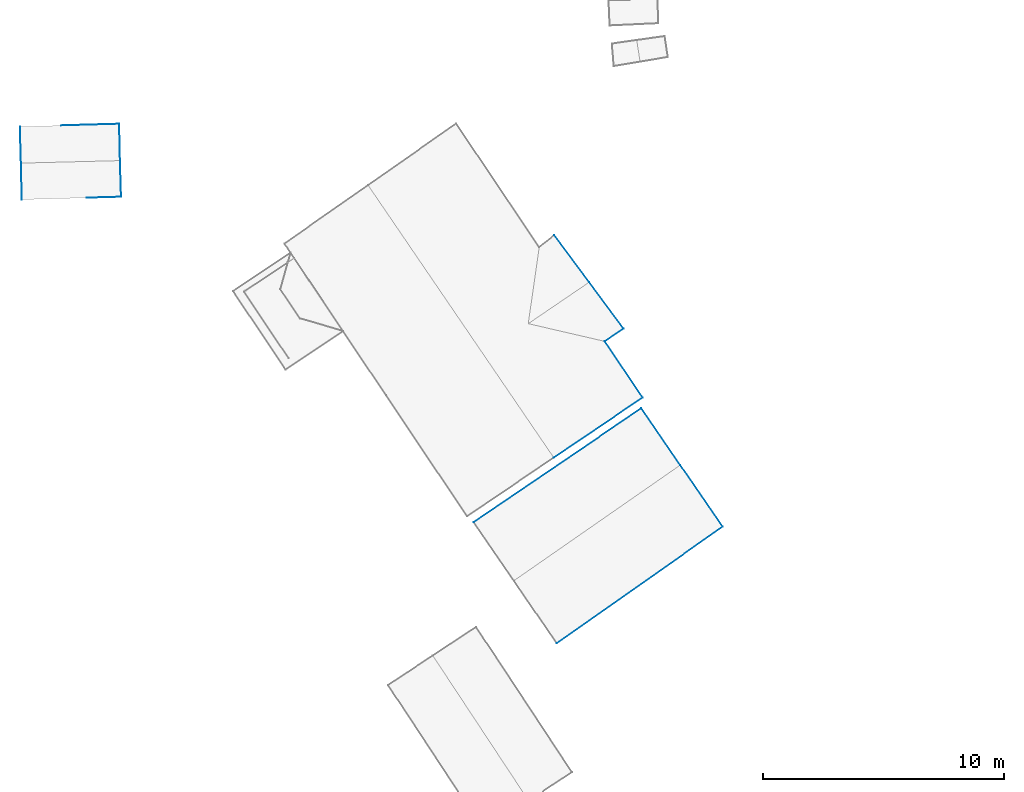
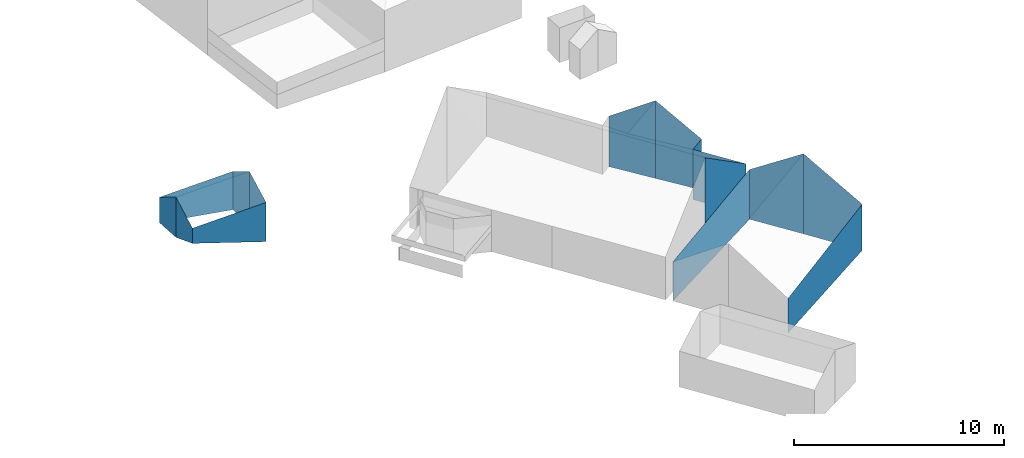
# Not in any storey, part 3 of 57: 15 walls.
"""IFC4 building model written with IfcOpenShell, lengths in metres."""

import ifcopenshell
import ifcopenshell.guid

model = None  # the IFC model being written
_history = None  # IfcOwnerHistory: only IFC2X3 demands one
_inside = {}  # id of a spatial element -> (the spatial element, [elements in it])
_under = {}  # id of a project, library or spatial element -> (it, [spatial elements below it])
_declared = {}  # id of a project -> (the project, [libraries it declares])
_typed = {}  # id of a type object -> (the type object, [elements of that type])
_made_of = {}  # id of a material, layer set ... -> (it, [elements and type objects made of it])


def new_model(schema):
    """Start an empty IFC model of exactly this schema.

    Asked for "IFC4X3", IfcOpenShell would pick the latest addendum, in which some entities
    have other attributes; the version numbers below select the first issue.
    IFC2X3 requires an IfcOwnerHistory on every rooted entity: one is made here for all.
    """
    global model, _history
    if schema == "IFC4X3":
        model = ifcopenshell.file(schema_version=(4, 3, 0, 0))
    else:
        model = ifcopenshell.file(schema=schema)
    _inside.clear()
    _under.clear()
    _declared.clear()
    _typed.clear()
    _made_of.clear()
    _history = None
    if model.schema == "IFC2X3":
        org = make("IfcOrganization", Name="unknown")
        user = make(
            "IfcPersonAndOrganization",
            ThePerson=make("IfcPerson", FamilyName="unknown"),
            TheOrganization=org,
        )
        app = make(
            "IfcApplication",
            ApplicationDeveloper=org,
            Version="unknown",
            ApplicationFullName="unknown",
            ApplicationIdentifier="unknown",
        )
        _history = make(
            "IfcOwnerHistory",
            OwningUser=user,
            OwningApplication=app,
            ChangeAction="ADDED",
            CreationDate=0,
        )
    return model


def make(cls, **values):
    """One entity of the class cls with the attributes given. An attribute that is None is left unset."""
    return model.create_entity(
        cls, **{name: value for name, value in values.items() if value is not None}
    )


def entity(cls, *values):
    """Any entity or typed value of the class cls, its attributes in the order of the schema. None: left unset."""
    e = model.create_entity(cls)
    for i, value in enumerate(values):
        if value is not None:
            e[i] = value
    return e


def rooted(cls, **values):
    """An entity with a GlobalId (a new one), such as an element, a storey or a relation."""
    return make(cls, GlobalId=ifcopenshell.guid.new(), OwnerHistory=_history, **values)


def si_unit(unit_type, name, prefix=None):
    """IfcSIUnit, for example si_unit("LENGTHUNIT", "METRE", prefix="MILLI")."""
    return make("IfcSIUnit", UnitType=unit_type, Prefix=prefix, Name=name)


def converted_unit(unit_type, name, factor, base, dimensions=None, offset=None):
    """IfcConversionBasedUnit, such as the inch: factor (a typed value) times the base unit."""
    return make(
        "IfcConversionBasedUnit"
        if offset is None
        else "IfcConversionBasedUnitWithOffset",
        ConversionOffset=offset,
        Dimensions=None
        if dimensions is None
        else entity("IfcDimensionalExponents", *dimensions),
        UnitType=unit_type,
        Name=name,
        ConversionFactor=make(
            "IfcMeasureWithUnit", ValueComponent=factor, UnitComponent=base
        ),
    )


def assignment(units):
    """IfcUnitAssignment: the units of a project."""
    return None if units is None else make("IfcUnitAssignment", Units=units)


def point(xyz):
    """IfcCartesianPoint."""
    return None if xyz is None else make("IfcCartesianPoint", Coordinates=xyz)


def direction(xyz):
    """IfcDirection."""
    return None if xyz is None else make("IfcDirection", DirectionRatios=xyz)


def frame(location, z_axis=None, x_axis=None):
    """IfcAxis2Placement3D, a coordinate frame: its origin and axes. An axis left out is left unset."""
    return make(
        "IfcAxis2Placement3D",
        Location=point(location),
        Axis=direction(z_axis),
        RefDirection=direction(x_axis),
    )


def origin():
    """The frame at (0, 0, 0) with its axes left unset."""
    return frame((0.0, 0.0, 0.0))


def place(relative_to, where):
    """IfcLocalPlacement: puts the frame where relative to a parent placement (None: the world)."""
    return make(
        "IfcLocalPlacement", PlacementRelTo=relative_to, RelativePlacement=where
    )


def context(
    kind, dimensions, precision=None, world=None, true_north=None, identifier=None
):
    """IfcGeometricRepresentationContext, for example the 3D "Model" context."""
    return make(
        "IfcGeometricRepresentationContext",
        ContextIdentifier=identifier,
        ContextType=kind,
        CoordinateSpaceDimension=dimensions,
        Precision=precision,
        WorldCoordinateSystem=world,
        TrueNorth=true_north,
    )


def subcontext(parent, identifier, kind, view, scale=None):
    """IfcGeometricRepresentationSubContext, for example "Body" below "Model"."""
    return make(
        "IfcGeometricRepresentationSubContext",
        ContextIdentifier=identifier,
        ContextType=kind,
        ParentContext=parent,
        TargetScale=scale,
        TargetView=view,
    )


def project(units=None, contexts=None):
    """IfcProject with its units and contexts."""
    return rooted(
        "IfcProject",
        Name="project",
        RepresentationContexts=contexts,
        UnitsInContext=assignment(units),
    )


def spatial(cls, under=None, at=None, **own):
    """A site, building, storey or space (cls), placed at a placement, below another one or the project."""
    s = rooted(cls, ObjectPlacement=at, **own)
    if under is not None:
        _under.setdefault(under.id(), (under, []))[1].append(s)
    return s


def faces_of(points, faces, orient=None, outer=None):
    """IfcFace entities. A face is a list of loops; a loop is a list of indices into points, from 0.

    orient and outer hold one flag for each loop. By default every Orientation is true, the
    first loop of a face is its IfcFaceOuterBound and the others are IfcFaceBound.
    """
    made = []
    for i, loops in enumerate(faces):
        bounds = []
        for j, loop in enumerate(loops):
            is_outer = j == 0 if outer is None else outer[i][j]
            bounds.append(
                make(
                    "IfcFaceOuterBound" if is_outer else "IfcFaceBound",
                    Bound=make("IfcPolyLoop", Polygon=[points[k] for k in loop]),
                    Orientation=True if orient is None else orient[i][j],
                )
            )
        made.append(make("IfcFace", Bounds=bounds))
    return made


def face_set(faces, orient=None, outer=None):
    """The faces of one IfcConnectedFaceSet. surface_model builds it on its shared points."""
    return ("IfcConnectedFaceSet", faces, orient, outer)


def surface_model(cls, points, shells):
    """IfcFaceBasedSurfaceModel or IfcShellBasedSurfaceModel (cls): surfaces that need not close."""
    shared = [point(p) for p in points]
    made = [make(c, CfsFaces=faces_of(shared, fs, o, b)) for c, fs, o, b in shells]
    if cls == "IfcFaceBasedSurfaceModel":
        return make(cls, FbsmFaces=made)
    return make(cls, SbsmBoundary=made)


def shape(context_of_items, identifier, shape_type, items):
    """IfcShapeRepresentation: the items that make up one representation, for example the "Body"."""
    return make(
        "IfcShapeRepresentation",
        ContextOfItems=context_of_items,
        RepresentationIdentifier=identifier,
        RepresentationType=shape_type,
        Items=items,
    )


def made_of(thing, what):
    """Note that an element or type object is made of a material, layer set ...; save() writes the relation."""
    if what is not None:
        _made_of.setdefault(what.id(), (what, []))[1].append(thing)
    return thing


def element(
    cls,
    number,
    at=None,
    inside=None,
    cuts=None,
    type_object=None,
    material=None,
    context=None,
    identifier="Body",
    shape_type=None,
    held_by="IfcProductDefinitionShape",
    body=None,
    shapes=None,
    **own,
):
    """One element of the class cls, such as IfcWall. Its Tag is "e" and its number.

    at: its placement. inside: the storey or other place that contains it. cuts: it is an
    opening in that element (IfcRelVoidsElement). A single representation is given by context,
    identifier, shape_type and body (its items); several are given by shapes. held_by: the class
    of the entity that holds the representations. save() writes the other relations.
    """
    e = rooted(cls, Tag="e%d" % number, ObjectPlacement=at, **own)
    if body is not None:
        shapes = [shape(context, identifier, shape_type, body)]
    if shapes is not None:
        e.Representation = make(held_by, Representations=shapes)
    if inside is not None:
        _inside.setdefault(inside.id(), (inside, []))[1].append(e)
    if cuts is not None:
        rooted(
            "IfcRelVoidsElement", RelatingBuildingElement=cuts, RelatedOpeningElement=e
        )
    if type_object is not None:
        _typed.setdefault(type_object.id(), (type_object, []))[1].append(e)
    return made_of(e, material)


def aggregate(whole, parts):
    """IfcRelAggregates: a whole, such as a stair, and the parts it consists of."""
    return rooted("IfcRelAggregates", RelatingObject=whole, RelatedObjects=parts)


def save(model, path):
    """Write the relations noted so far, then the file.

    IfcRelAggregates (storeys below a building ...), IfcRelContainedInSpatialStructure (elements
    in a storey), IfcRelDefinesByType, IfcRelAssociatesMaterial and IfcRelDeclares: one each for
    every whole, place, type object, material and project.
    """
    for whole, parts in _under.values():
        aggregate(whole, parts)
    for where, things in _inside.values():
        rooted(
            "IfcRelContainedInSpatialStructure",
            RelatedElements=things,
            RelatingStructure=where,
        )
    for kind, things in _typed.values():
        rooted("IfcRelDefinesByType", RelatedObjects=things, RelatingType=kind)
    for what, things in _made_of.values():
        rooted("IfcRelAssociatesMaterial", RelatedObjects=things, RelatingMaterial=what)
    for by, libraries in _declared.values():
        rooted("IfcRelDeclares", RelatingContext=by, RelatedDefinitions=libraries)
    model.write(path)


model = new_model("IFC4")

# Units and contexts
model_context = context("Model", 3, precision=1e-05, world=origin())
body_context = subcontext(model_context, "Body", "Model", "MODEL_VIEW")
ifc_project = project(units=[converted_unit("PLANEANGLEUNIT", "DEGREE", entity("IfcRatioMeasure", 0.0174532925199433), si_unit("PLANEANGLEUNIT", "RADIAN"), dimensions=[0, 0, 0, 0, 0, 0, 0]), si_unit("AREAUNIT", "SQUARE_METRE"), si_unit("LENGTHUNIT", "METRE")], contexts=[model_context])

# Site, building
site_placement = place(None, origin())
site = spatial("IfcSite", under=ifc_project, at=site_placement, Name="_site")
building_1_placement = place(site_placement, origin())
building_1 = spatial("IfcBuilding", under=site, at=building_1_placement, Name="_building")

# Walls
wall_1_placement = place(building_1_placement, origin())
element("IfcWall", 1, at=wall_1_placement, inside=building_1, Name="Wall", PredefinedType="NOTDEFINED", context=body_context, shape_type="SurfaceModel", body=[
    surface_model("IfcFaceBasedSurfaceModel", [(80.523, 89.644, 114.25), (80.557, 88.122, 115.16), (80.557, 88.122, 112.0), (80.523, 89.644, 112.017)], [face_set([[[0, 1, 2, 3]]])]),
])
wall_2_placement = place(building_1_placement, origin())
element("IfcWall", 2, at=wall_2_placement, inside=building_1, Name="Wall", PredefinedType="NOTDEFINED", context=body_context, shape_type="SurfaceModel", body=[
    surface_model("IfcFaceBasedSurfaceModel", [(76.408, 89.53, 114.25), (80.523, 89.644, 114.25), (80.523, 89.644, 112.017), (76.408, 89.53, 112.778)], [face_set([[[0, 1, 2, 3]]])]),
])
wall_3_placement = place(building_1_placement, origin())
element("IfcWall", 3, at=wall_3_placement, inside=building_1, Name="Wall", PredefinedType="NOTDEFINED", context=body_context, shape_type="SurfaceModel", body=[
    surface_model("IfcFaceBasedSurfaceModel", [(76.452, 88.018, 115.16), (76.408, 89.53, 114.25), (76.408, 89.53, 112.778), (76.452, 88.018, 112.816)], [face_set([[[0, 1, 2, 3]]])]),
])
wall_4_placement = place(building_1_placement, origin())
element("IfcWall", 4, at=wall_4_placement, inside=building_1, Name="Wall", PredefinedType="NOTDEFINED", context=body_context, shape_type="SurfaceModel", body=[
    surface_model("IfcFaceBasedSurfaceModel", [(76.487, 86.506, 114.25), (76.452, 88.018, 115.16), (76.452, 88.018, 112.816), (76.487, 86.506, 113.37)], [face_set([[[0, 1, 2, 3]]])]),
])
wall_5_placement = place(building_1_placement, origin())
element("IfcWall", 5, at=wall_5_placement, inside=building_1, Name="Wall", PredefinedType="NOTDEFINED", context=body_context, shape_type="SurfaceModel", body=[
    surface_model("IfcFaceBasedSurfaceModel", [(80.602, 86.62, 114.25), (76.487, 86.506, 114.25), (76.487, 86.506, 113.37), (80.602, 86.62, 111.963)], [face_set([[[0, 1, 2, 3]]])]),
])
wall_6_placement = place(building_1_placement, origin())
element("IfcWall", 6, at=wall_6_placement, inside=building_1, Name="Wall", PredefinedType="NOTDEFINED", context=body_context, shape_type="SurfaceModel", body=[
    surface_model("IfcFaceBasedSurfaceModel", [(80.557, 88.122, 115.16), (80.602, 86.62, 114.25), (80.602, 86.62, 111.963), (80.557, 88.122, 112.0)], [face_set([[[0, 1, 2, 3]]])]),
])

# Building
building_2_placement = place(site_placement, origin())
building_2 = spatial("IfcBuilding", under=site, at=building_2_placement, Name="_building")

# Walls
wall_7_placement = place(building_2_placement, origin())
element("IfcWall", 7, at=wall_7_placement, inside=building_2, Name="Wall", PredefinedType="NOTDEFINED", context=body_context, shape_type="SurfaceModel", body=[
    surface_model("IfcFaceBasedSurfaceModel", [(102.17, 77.85, 113.93), (103.786, 75.501, 115.71), (103.786, 75.501, 111.038), (102.17, 77.85, 111.029)], [face_set([[[0, 1, 2, 3]]])]),
])
wall_8_placement = place(building_2_placement, origin())
element("IfcWall", 8, at=wall_8_placement, inside=building_2, Name="Wall", PredefinedType="NOTDEFINED", context=body_context, shape_type="SurfaceModel", body=[
    surface_model("IfcFaceBasedSurfaceModel", [(95.225, 73.129, 113.84), (102.17, 77.85, 113.93), (102.17, 77.85, 111.029), (95.225, 73.129, 111.573)], [face_set([[[0, 1, 2, 3]]])]),
])
wall_9_placement = place(building_2_placement, origin())
element("IfcWall", 9, at=wall_9_placement, inside=building_2, Name="Wall", PredefinedType="NOTDEFINED", context=body_context, shape_type="SurfaceModel", body=[
    surface_model("IfcFaceBasedSurfaceModel", [(105.548, 72.948, 113.7), (98.67, 68.106, 113.56), (98.67, 68.106, 111.541), (105.548, 72.948, 111.015)], [face_set([[[0, 1, 2, 3]]])]),
])
wall_10_placement = place(building_2_placement, origin())
element("IfcWall", 10, at=wall_10_placement, inside=building_2, Name="Wall", PredefinedType="NOTDEFINED", context=body_context, shape_type="SurfaceModel", body=[
    surface_model("IfcFaceBasedSurfaceModel", [(103.786, 75.501, 115.71), (105.548, 72.948, 113.7), (105.548, 72.948, 111.015), (103.786, 75.501, 111.038)], [face_set([[[0, 1, 2, 3]]])]),
])

# Building
building_3_placement = place(site_placement, origin())
building_3 = spatial("IfcBuilding", under=site, at=building_3_placement, Name="_building")

# Walls
wall_11_placement = place(building_3_placement, origin())
element("IfcWall", 11, at=wall_11_placement, inside=building_3, Name="Wall", PredefinedType="NOTDEFINED", context=body_context, shape_type="SurfaceModel", body=[
    surface_model("IfcFaceBasedSurfaceModel", [(98.566, 85.029, 113.95), (100.011, 83.083, 115.53), (100.011, 83.083, 110.99), (98.566, 85.029, 111.005)], [face_set([[[0, 1, 2, 3]]])]),
])
wall_12_placement = place(building_3_placement, origin())
element("IfcWall", 12, at=wall_12_placement, inside=building_3, Name="Wall", PredefinedType="NOTDEFINED", context=body_context, shape_type="SurfaceModel", body=[
    surface_model("IfcFaceBasedSurfaceModel", [(100.654, 80.627, 113.95), (102.231, 78.299, 113.97), (102.231, 78.299, 111.015), (100.654, 80.627, 111.032)], [face_set([[[0, 1, 2, 3]]])]),
])
wall_13_placement = place(building_3_placement, origin())
element("IfcWall", 13, at=wall_13_placement, inside=building_3, Name="Wall", PredefinedType="NOTDEFINED", context=body_context, shape_type="SurfaceModel", body=[
    surface_model("IfcFaceBasedSurfaceModel", [(102.231, 78.299, 113.97), (98.54, 75.803, 117.13), (98.54, 75.803, 111.304), (102.231, 78.299, 111.015)], [face_set([[[0, 1, 2, 3]]])]),
])
wall_14_placement = place(building_3_placement, origin())
element("IfcWall", 14, at=wall_14_placement, inside=building_3, Name="Wall", PredefinedType="NOTDEFINED", context=body_context, shape_type="SurfaceModel", body=[
    surface_model("IfcFaceBasedSurfaceModel", [(101.437, 81.159, 113.95), (100.654, 80.627, 113.95), (100.654, 80.627, 111.032), (101.437, 81.159, 110.983)], [face_set([[[0, 1, 2, 3]]])]),
])
wall_15_placement = place(building_3_placement, origin())
element("IfcWall", 15, at=wall_15_placement, inside=building_3, Name="Wall", PredefinedType="NOTDEFINED", context=body_context, shape_type="SurfaceModel", body=[
    surface_model("IfcFaceBasedSurfaceModel", [(100.011, 83.083, 115.53), (101.437, 81.159, 113.95), (101.437, 81.159, 110.983), (100.011, 83.083, 110.99)], [face_set([[[0, 1, 2, 3]]])]),
])

save(model, "model.ifc")
